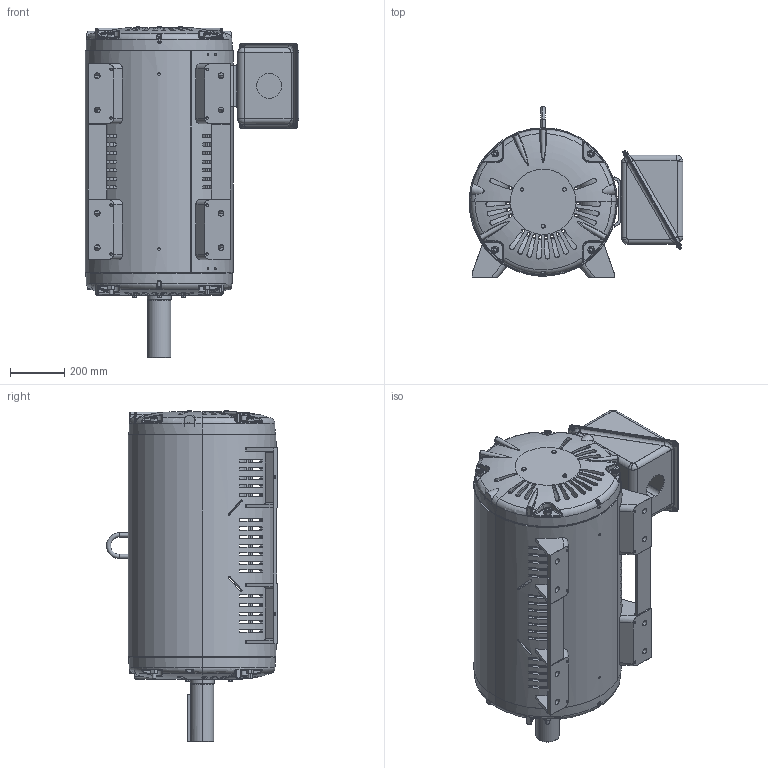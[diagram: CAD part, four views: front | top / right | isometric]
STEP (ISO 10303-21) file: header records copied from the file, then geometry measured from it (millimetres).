
FILE_DESCRIPTION (( 'STEP AP203' ), '1' );
FILE_NAME ('XK2D1SS1-3177_RevF.STEP', '2019-08-09T20:04:24', ( '' ), ( '' ), 'SwSTEP 2.0', 'SolidWorks 2015', '' );
FILE_SCHEMA (( 'CONFIG_CONTROL_DESIGN' ));
Length unit declared in the file: inch
Products named in the file (1): XK2D1SS1-3177_RevF
Bounding box: 789.49 x 632.08 x 1224.15 mm (x, y, z)
Volume: 37847512.3 mm3; surface area: 7540125.8 mm2
Topology: 39 solids, 39 shells, 2617 faces, 6613 edges, 4077 vertices
Faces by surface type: plane 736, bspline 688, cylinder 679, cone 253, torus 243, sphere 18
Entity records: 130849 total; most frequent: CARTESIAN_POINT 73532, ORIENTED_EDGE 13174, DIRECTION 10216, EDGE_CURVE 6587, AXIS2_PLACEMENT_3D 4271, VERTEX_POINT 4073, EDGE_LOOP 2966, ADVANCED_FACE 2617
